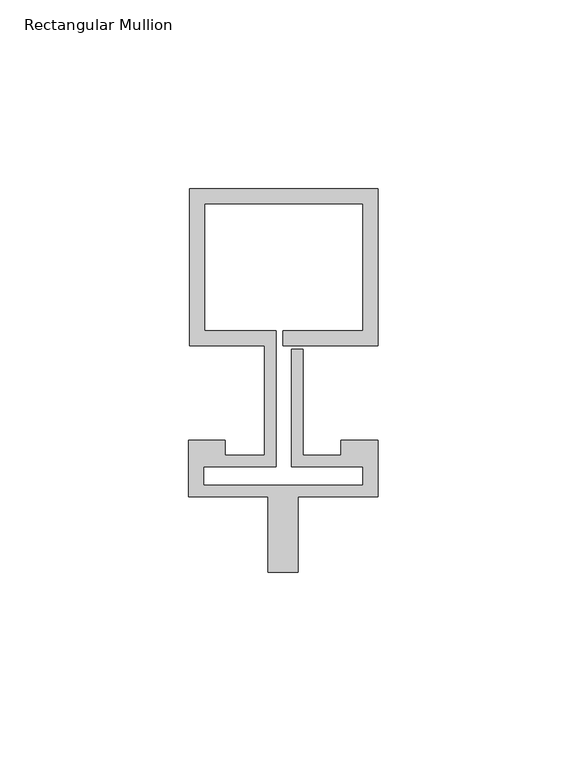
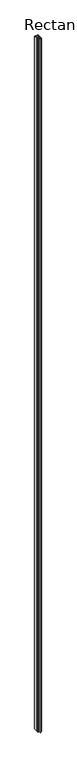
"""IFC4 building model written with IfcOpenShell, lengths in millimetres: member geometry, Rectangular Mullion : Reynaers_CW-50_Mullion-Transom_Vertical_41.5mm_Facecap-06A."""

from ifc_helpers import new_model, si_unit, frame, origin, place, context, project, spatial, polyline, outline, extrude, source, transform, mapped, element, save


def rectangular_mullion_508c35ca(model_context):
    return source(origin(), model_context, "Body", "SweptSolid", [
        extrude(outline(polyline([(-24.8004059, 54.0), (25.1995941, 54.0), (25.1995941, 12.5), (0.0, 12.5), (0.0, 16.5), (21.1995941, 16.5), (21.1995941, 50.0), (-20.8004059, 50.0), (-20.8004059, 16.5), (-1.9004059, 16.5), (-1.9004059, -19.5), (-20.994845, -19.5), (-20.994845, -24.4191338), (21.1995941, -24.4191338), (21.1995941, -19.5), (2.2995941, -19.5), (2.2995941, 11.5), (5.2995941, 11.5), (5.2995941, -16.5), (15.2996495, -16.5), (15.2996495, -12.5), (25.1995941, -12.5), (25.1995941, -27.5), (4.004855, -27.5), (4.004855, -47.5), (-3.995145, -47.5), (-3.995145, -27.5), (-24.994845, -27.5), (-24.994845, -12.5), (-15.2996495, -12.5), (-15.2996495, -16.5), (-4.9004059, -16.5), (-4.9004059, 12.5), (-24.8004059, 12.5), (-24.8004059, 54.0)])), frame((0.0, 0.0, -10400.0), z_axis=(0.0, 0.0, 1.0), x_axis=(1.0, 0.0, 0.0)), (0.0, 0.0, 1.0), 10400.0),
    ])


if __name__ == "__main__":
    model = new_model("IFC4")
    model_context = context("Model", 3, world=origin())
    ifc_project = project(units=[si_unit("LENGTHUNIT", "METRE", prefix="MILLI")], contexts=[model_context])
    site = spatial("IfcSite", under=ifc_project)
    building = spatial("IfcBuilding", under=site)
    placement = place(None, origin())
    rectangular_mullion_shape = rectangular_mullion_508c35ca(model_context)
    element("IfcMember", 1, ObjectType="Rectangular Mullion : Reynaers_CW-50_Mullion-Transom_Vertical_41.5mm_Facecap-06A", at=placement, inside=building, context=model_context, shape_type="MappedRepresentation", body=[
        mapped(rectangular_mullion_shape, transform((0.0, 0.0, 0.0), x_axis=(1.0, 0.0, 0.0), y_axis=(0.0, 1.0, 0.0), z_axis=(0.0, 0.0, 1.0))),
    ])
    save(model, "model.ifc")
